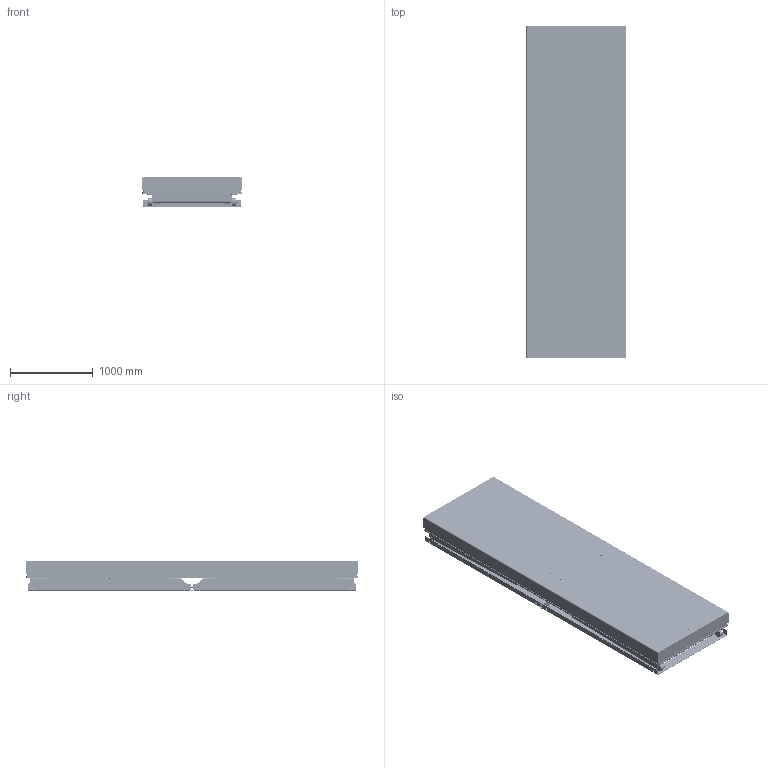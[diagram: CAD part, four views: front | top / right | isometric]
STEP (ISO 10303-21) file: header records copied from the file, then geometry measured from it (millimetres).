
FILE_DESCRIPTION(/* description */ (''),/* implementation_level */ '2;1');
FILE_NAME(/* name */ 'C:\Users\JOAED\Desktop\TAH 8000 - (33890)\33890_Collapsed.stp',/* time_stamp */ '2021-10-28T07:14:10+02:00',/* author */ ('JOAED'),/* organization */ (''),/* preprocessor_version */ 'ST-DEVELOPER v18.1',/* originating_system */ 'Autodesk Inventor 2021',/* authorisation */ '');
FILE_SCHEMA (('AUTOMOTIVE_DESIGN { 1 0 10303 214 3 1 1 }'));
Products named in the file (93): 33890; 33891; 33861; 612279; 601395; 44004; 44006; 43270; 614083; ISO 4019 - 80x40x4 - 1185; 80476; ISO 4017 - M10 x 65; 614112; 614114; 614078; 44005; 614115; 614116; 614075; 614077; 41333-1986; 41333-338; 41333-298; 601704; 614024; 614025; 614032; 614081; 614022; 80131; 85955; 45387; 42509-25; 84409; 84538; 614036; 82091 - 934; 614146; 614117; 42289-1156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
Assembly tree (360 placements, depth 5):
  33890
    33891
      33861  x2
        612279
        601395
        44004
        44005
        44006
        43270
      614083
        ISO 4019 - 80x40x4 - 1185
      ISO 4017 - M10 x 65  x4
      84409  x8
      80476  x4
    70025  x32
    42509  x16
    83245  x16
    84006  x6
    614112
      614114
      614075
      614077
      614078  x2
      41333-1986  x2
      41333-338  x2
      41333-298
      601704  x2
      44005  x2
      614024
      614025
      614032  x2
      45387  x9
      80131  x6
      85955  x3
    614115
      614116
      614075
      614077
      41333-1986  x2
      41333-338  x2
      41333-298
      601704  x2
      614024
      614025
      614032  x2
      614081  x2
      614022  x4
      45387  x9
      80131  x6
      85955  x3
    42509-25  x4
    614036  x4
      82091 - 934
      614146
    84409  x4
    84538  x4
    614117
      42289-1978  x4
      42289-1156  x2
      33990  x4
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Bounding box: 1200.2 x 4000.2 x 350 mm (x, y, z)
Volume: 131538305.3 mm3; surface area: 50242333.5 mm2
Topology: 371 solids, 383 shells, 15967 faces, 42053 edges, 27366 vertices
Faces by surface type: plane 8520, cylinder 4627, bspline 1164, cone 1160, torus 488, sphere 8
Full cylindrical faces by diameter (mm): 0.217 x2, 0.474 x4, 1 x16, 1.2 x10, 3 x8, 3.141 x8, 3.2 x8, 4 x32, 4.3 x8, 4.445 x2, 4.9 x4, 5 x24, 5.156 x2, 5.2 x12, 5.3 x4, 5.4 x2, 5.969 x2, 6.647 x12, 6.917 x12, 7.4 x28, 7.6 x8, 8 x40, 8.376 x4, 8.5 x20, 9 x5, 9.3 x6, 10 x52, 10.106 x6, 10.4 x2, 10.5 x28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
Entity records: 194119 total; most frequent: CARTESIAN_POINT 52881, ORIENTED_EDGE 28376, DIRECTION 27908, EDGE_CURVE 14188, AXIS2_PLACEMENT_3D 9457, VERTEX_POINT 9235, LINE 8994, VECTOR 8994
